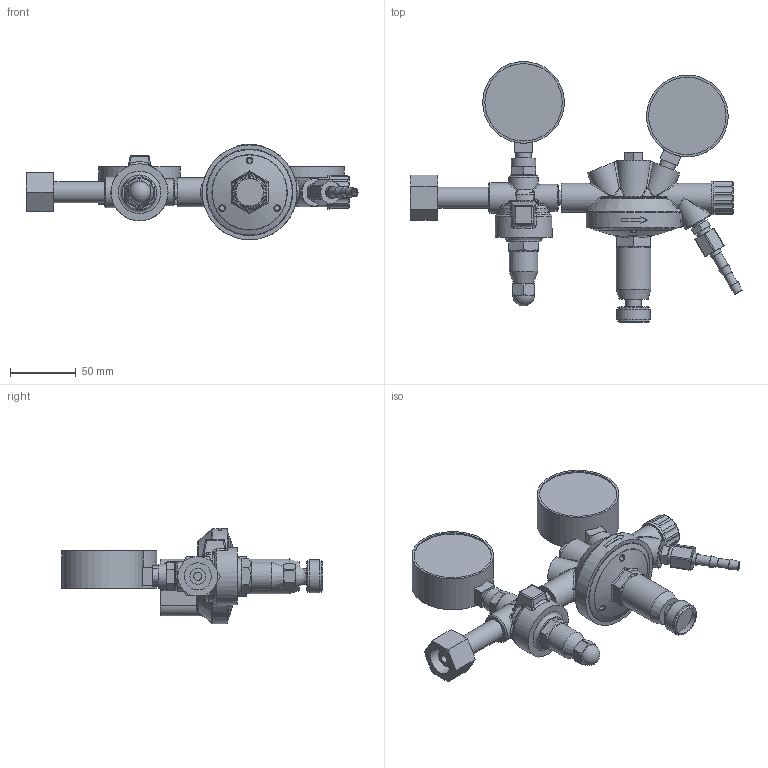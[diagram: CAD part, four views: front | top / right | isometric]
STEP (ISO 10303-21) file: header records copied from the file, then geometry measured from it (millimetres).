
FILE_DESCRIPTION((''),'2;1');
FILE_NAME('U:\AirCom-Produktdokumentation\Druckregler\RH300\Zeichnungen\CAD-Aircom\3D\RH-206250.stp','2012-10-22T15:33:23',('Frank Schroers'),(''),'Autodesk Inventor 2008','Autodesk Inventor 2008','');
FILE_SCHEMA(('AUTOMOTIVE_DESIGN { 1 0 10303 214 1 1 1 1 }'));
Length unit declared in the file: millimetre
Products named in the file (5): RH-206; RH-302; RH-302-2; RH-302-anschluss-ausgang; RH-mano
Assembly tree (5 placements, depth 2):
  RH-206
    RH-302
    RH-302-2
    RH-302-anschluss-ausgang
    RH-mano  x2
Bounding box: 251.96 x 198 x 72.49 mm (x, y, z)
Volume: 471672.1 mm3; surface area: 79347.1 mm2
Topology: 5 solids, 5 shells, 553 faces, 1341 edges, 796 vertices
Faces by surface type: bspline 180, plane 168, cylinder 113, cone 76, torus 11, sphere 5
Full cylindrical faces by diameter (mm): 4 x3, 4.9 x1, 6 x1, 6.5 x1, 7.5 x1, 8.9 x1, 11 x3, 11.78 x1, 11.9 x2, 11.95 x1, 12 x1, 16 x1, 18.4 x1, 18.5 x2, 20.4 x1, 20.5 x1, 20.8 x1, 21.5 x1, 22 x3, 22.4 x1, 23.2 x1, 24 x2, 25.3 x1, 25.5 x1, 26 x1, 26.3 x1, 26.4 x1, 43.2 x1, 58.743 x2, 62 x2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
Entity records: 29392 total; most frequent: CARTESIAN_POINT 18158, ORIENTED_EDGE 2410, DIRECTION 2060, EDGE_CURVE 1205, AXIS2_PLACEMENT_3D 877, VERTEX_POINT 761, EDGE_LOOP 634, FACE_OUTER_BOUND 541
